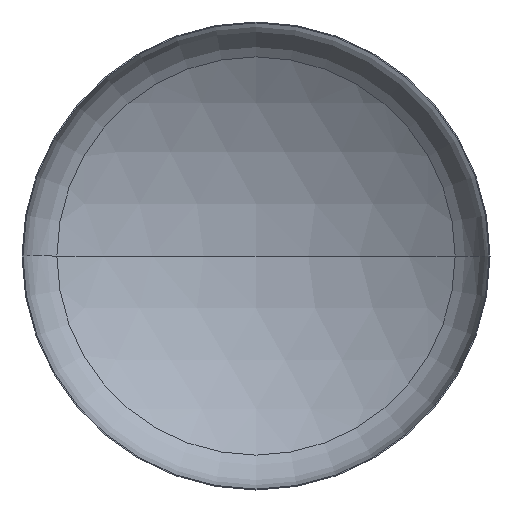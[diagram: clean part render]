
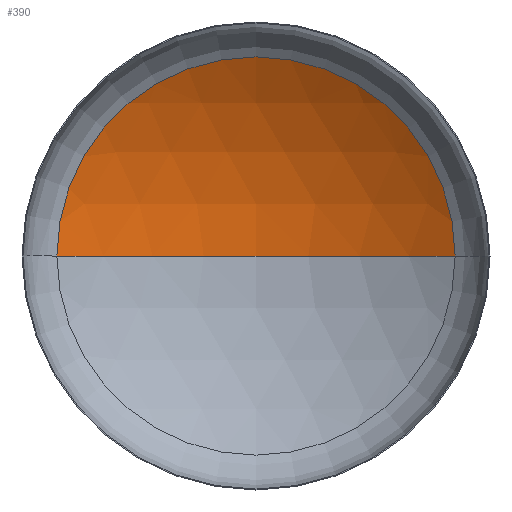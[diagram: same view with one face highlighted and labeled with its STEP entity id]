
A CAD part, front view. The second image highlights one B-rep face of the part: STEP entity #390.
In plain terms, the highlighted spherical face has radius 1600 mm.
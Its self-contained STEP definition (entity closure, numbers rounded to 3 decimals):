
#4 = CARTESIAN_POINT ( 'NONE',  ( 0., -1072.476, 0. ) ) ;
#6 = EDGE_LOOP ( 'NONE', ( #124, #41, #51 ) ) ;
#27 = DIRECTION ( 'NONE',  ( -1., 0., 0. ) ) ;
#38 = AXIS2_PLACEMENT_3D ( 'NONE', #236, #136, #338 ) ;
#41 = ORIENTED_EDGE ( 'NONE', *, *, #85, .T. ) ;
#42 = AXIS2_PLACEMENT_3D ( 'NONE', #4, #150, #27 ) ;
#43 = AXIS2_PLACEMENT_3D ( 'NONE', #202, #392, #358 ) ;
#51 = ORIENTED_EDGE ( 'NONE', *, *, #84, .T. ) ;
#84 = EDGE_CURVE ( 'NONE', #100, #330, #406, .T. ) ;
#85 = EDGE_CURVE ( 'NONE', #194, #100, #152, .T. ) ;
#87 = EDGE_CURVE ( 'NONE', #194, #330, #296, .T. ) ;
#100 = VERTEX_POINT ( 'NONE', #201 ) ;
#124 = ORIENTED_EDGE ( 'NONE', *, *, #87, .F. ) ;
#136 = DIRECTION ( 'NONE',  ( 0., 0., 1. ) ) ;
#138 = CARTESIAN_POINT ( 'NONE',  ( -850.853, 282.533, 0. ) ) ;
#150 = DIRECTION ( 'NONE',  ( 0., 0., -1. ) ) ;
#152 = CIRCLE ( 'NONE', #42, 1600. ) ;
#175 = SPHERICAL_SURFACE ( 'NONE', #365, 1600. ) ;
#194 = VERTEX_POINT ( 'NONE', #297 ) ;
#201 = CARTESIAN_POINT ( 'NONE',  ( 850.853, 282.533, 0. ) ) ;
#202 = CARTESIAN_POINT ( 'NONE',  ( 0., 282.533, 0. ) ) ;
#203 = DIRECTION ( 'NONE',  ( -1., 0., 0. ) ) ;
#236 = CARTESIAN_POINT ( 'NONE',  ( 0., -1072.476, 0. ) ) ;
#273 = DIRECTION ( 'NONE',  ( 0., 0., -1. ) ) ;
#296 = CIRCLE ( 'NONE', #38, 1600. ) ;
#297 = CARTESIAN_POINT ( 'NONE',  ( 0., 527.524, 0. ) ) ;
#309 = FACE_OUTER_BOUND ( 'NONE', #6, .T. ) ;
#312 = CARTESIAN_POINT ( 'NONE',  ( 0., -1072.476, 0. ) ) ;
#330 = VERTEX_POINT ( 'NONE', #138 ) ;
#338 = DIRECTION ( 'NONE',  ( 1., 0., 0. ) ) ;
#358 = DIRECTION ( 'NONE',  ( 1., 0., 0. ) ) ;
#365 = AXIS2_PLACEMENT_3D ( 'NONE', #312, #273, #203 ) ;
#390 = ADVANCED_FACE ( 'NONE', ( #309 ), #175, .F. ) ;
#392 = DIRECTION ( 'NONE',  ( 0., -1., 0. ) ) ;
#406 = CIRCLE ( 'NONE', #43, 850.853 ) ;
